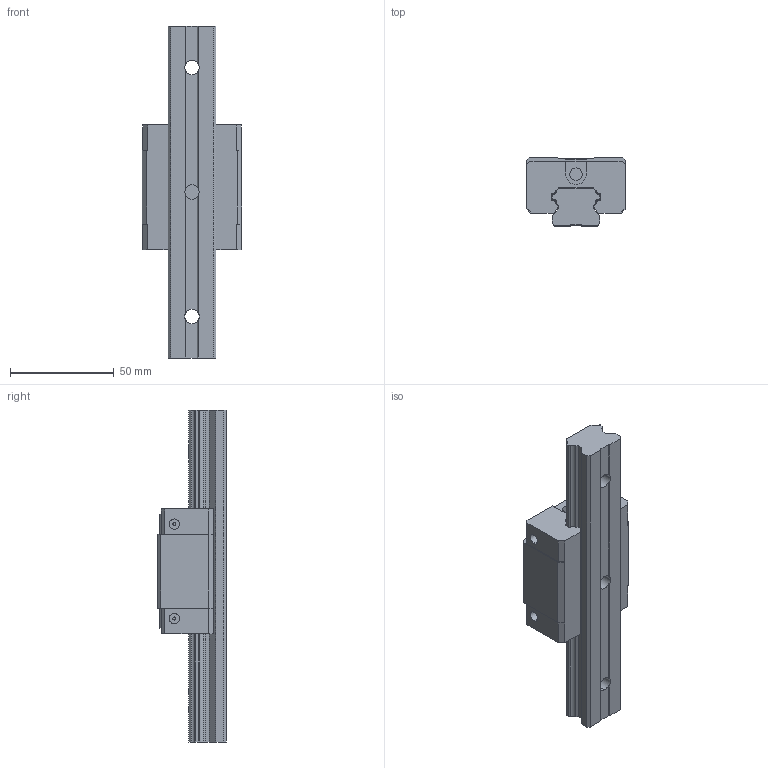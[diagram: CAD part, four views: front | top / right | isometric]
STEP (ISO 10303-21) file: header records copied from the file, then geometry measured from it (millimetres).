
FILE_DESCRIPTION((''),'2;1');
FILE_NAME('QEH25SA_ASM','2008-07-11T',('brianyu'),(''),'PRO/ENGINEER BY PARAMETRIC TECHNOLOGY CORPORATION, 2004360','PRO/ENGINEER BY PARAMETRIC TECHNOLOGY CORPORATION, 2004360','');
FILE_SCHEMA(('CONFIG_CONTROL_DESIGN'));
Length unit declared in the file: millimetre
Products named in the file (4): QER25_RAIL; QEH25SA_BLOCK; QEH25SA_ASM_ASM; QEH25SA_ASM
Assembly tree (3 placements, depth 3):
  QEH25SA_ASM
    QEH25SA_ASM_ASM
      QER25_RAIL
      QEH25SA_BLOCK
Bounding box: 48 x 33 x 160 mm (x, y, z)
Volume: 109851 mm3; surface area: 30842.4 mm2
Topology: 2 solids, 3 shells, 178 faces, 504 edges, 348 vertices
Faces by surface type: plane 114, cylinder 64
Entity records: 5982 total; most frequent: CARTESIAN_POINT 1069, DIRECTION 1010, ORIENTED_EDGE 1008, EDGE_CURVE 504, VECTOR 348, LINE 348, VERTEX_POINT 348, AXIS2_PLACEMENT_3D 331
